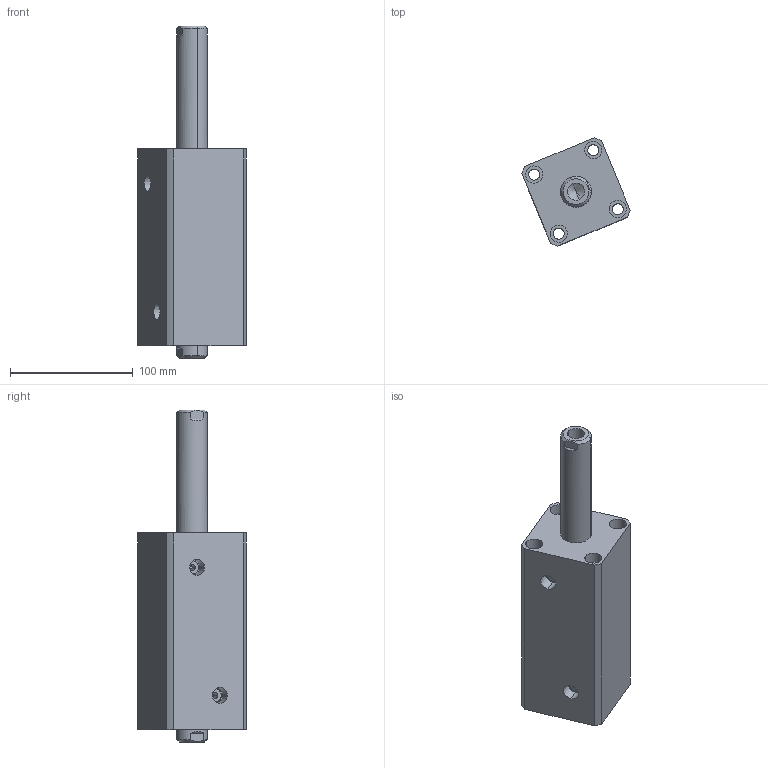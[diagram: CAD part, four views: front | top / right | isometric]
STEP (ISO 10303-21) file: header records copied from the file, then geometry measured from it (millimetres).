
FILE_DESCRIPTION (( 'STEP AP214' ), '1' );
FILE_NAME ('chtb-sw40x90n_asm.STEP', '2018-06-09T00:33:55', ( 'Windows' ), ( 'Microsoft' ), 'SwSTEP 2.0', 'SolidWorks 2015', '' );
FILE_SCHEMA (( 'AUTOMOTIVE_DESIGN' ));
Length unit declared in the file: millimetre
Products named in the file (4): CHTB-SW40X90NHSG; CHTB-SW40X90NBT; CHTB-SD40QG; chtb-sw40x90n_asm
Assembly tree (3 placements, depth 2):
  chtb-sw40x90n_asm
    CHTB-SD40QG
    CHTB-SW40X90NBT
    CHTB-SW40X90NHSG
Bounding box: 88.11 x 88.11 x 270 mm (x, y, z)
Volume: 703220.6 mm3; surface area: 127947.8 mm2
Topology: 3 solids, 3 shells, 167 faces, 429 edges, 282 vertices
Faces by surface type: cylinder 84, plane 40, cone 17, bspline 14, torus 12
Entity records: 10325 total; most frequent: CARTESIAN_POINT 6131, ORIENTED_EDGE 838, DIRECTION 822, EDGE_CURVE 419, AXIS2_PLACEMENT_3D 348, VERTEX_POINT 282, EDGE_LOOP 207, CIRCLE 189
